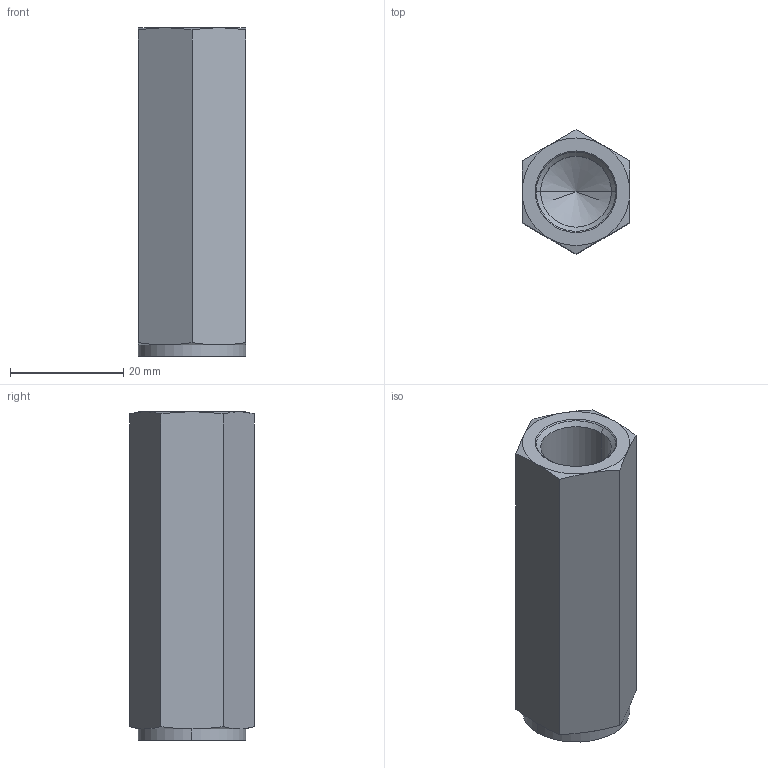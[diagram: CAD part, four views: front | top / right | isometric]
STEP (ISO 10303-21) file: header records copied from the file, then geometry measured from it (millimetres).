
FILE_DESCRIPTION((''),'2;1');
FILE_NAME('VJS3_06_015_M1_020_285070','2022-10-13T',('l.soukupova'),(''),'PRO/ENGINEER BY PARAMETRIC TECHNOLOGY CORPORATION, 2015440','PRO/ENGINEER BY PARAMETRIC TECHNOLOGY CORPORATION, 2015440','');
FILE_SCHEMA(('AUTOMOTIVE_DESIGN { 1 0 10303 214 1 1 1 1 }'));
Length unit declared in the file: millimetre
Products named in the file (1): VJS3_06_015_M1_020_285070
Bounding box: 19 x 21.94 x 58 mm (x, y, z)
Volume: 14053.7 mm3; surface area: 6689.9 mm2
Topology: 1 solids, 3 shells, 40 faces, 114 edges, 87 vertices
Faces by surface type: cone 20, plane 10, cylinder 10
Entity records: 1911 total; most frequent: CARTESIAN_POINT 453, DIRECTION 212, ORIENTED_EDGE 164, PRESENTATION_STYLE_ASSIGNMENT 122, STYLED_ITEM 122, CURVE_STYLE 119, EDGE_CURVE 86, AXIS2_PLACEMENT_3D 83
